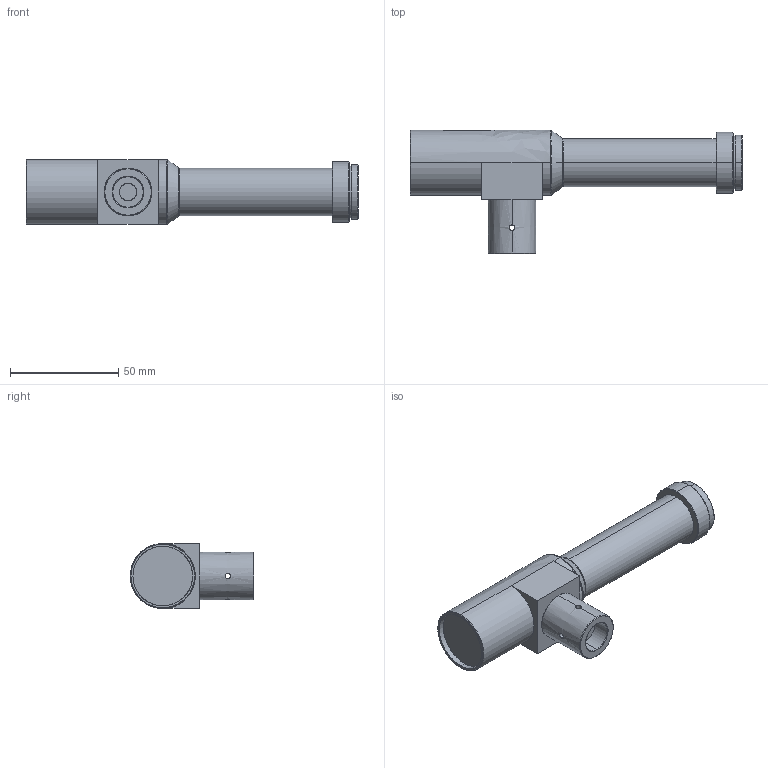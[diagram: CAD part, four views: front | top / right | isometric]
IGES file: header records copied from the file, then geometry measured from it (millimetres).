
Start section: SolidWorks IGES file using analytic representation for surfaces
Global section: file name: C:\Users\16255\Desktop\WWH60-63CTV4-IR1300.IGS; native system: SolidWorks 2017; preprocessor: SolidWorks 2017; author: 16255; date: 220711.141411; units: millimetre
Bounding box: 153.3 x 57 x 30 mm (x, y, z)
Surface area: 17732.9 mm2 (no closed solid volume)
Topology: 0 solids, 0 shells, 59 faces, 1282 edges, 1282 vertices
Faces by surface type: revolution 41, bspline 18
